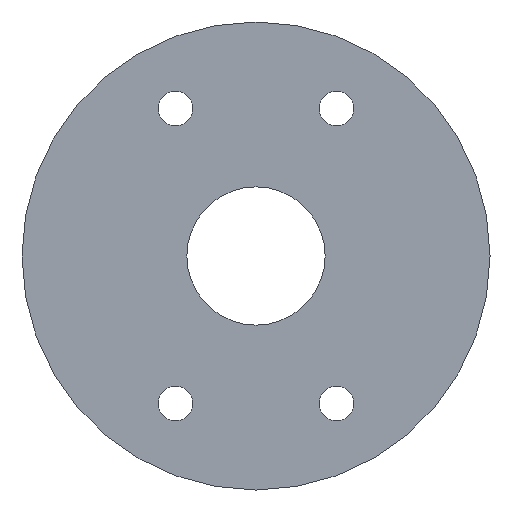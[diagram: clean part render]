
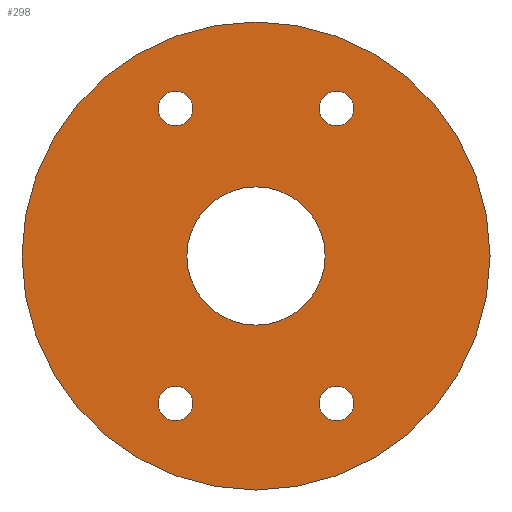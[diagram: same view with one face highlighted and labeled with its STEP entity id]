
A CAD part, front view. The second image highlights one B-rep face of the part: STEP entity #298.
In plain terms, the highlighted planar face has unit normal (0, -1, 0).
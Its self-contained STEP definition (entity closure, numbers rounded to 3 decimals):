
#24=PLANE('',#339);
#46=ORIENTED_EDGE('',*,*,#102,.F.);
#47=ORIENTED_EDGE('',*,*,#103,.F.);
#48=ORIENTED_EDGE('',*,*,#104,.F.);
#49=ORIENTED_EDGE('',*,*,#105,.F.);
#50=ORIENTED_EDGE('',*,*,#106,.T.);
#51=ORIENTED_EDGE('',*,*,#101,.F.);
#101=EDGE_CURVE('',#129,#129,#157,.T.);
#102=EDGE_CURVE('',#130,#130,#158,.T.);
#103=EDGE_CURVE('',#131,#131,#159,.T.);
#104=EDGE_CURVE('',#132,#132,#160,.T.);
#105=EDGE_CURVE('',#133,#133,#161,.T.);
#106=EDGE_CURVE('',#134,#134,#162,.T.);
#129=VERTEX_POINT('',#501);
#130=VERTEX_POINT('',#504);
#131=VERTEX_POINT('',#506);
#132=VERTEX_POINT('',#508);
#133=VERTEX_POINT('',#510);
#134=VERTEX_POINT('',#512);
#157=CIRCLE('',#338,5.159);
#158=CIRCLE('',#340,1.295);
#159=CIRCLE('',#341,1.295);
#160=CIRCLE('',#342,1.295);
#161=CIRCLE('',#343,1.295);
#162=CIRCLE('',#344,17.463);
#186=EDGE_LOOP('',(#46));
#187=EDGE_LOOP('',(#47));
#188=EDGE_LOOP('',(#48));
#189=EDGE_LOOP('',(#49));
#190=EDGE_LOOP('',(#50));
#191=EDGE_LOOP('',(#51));
#242=FACE_BOUND('',#186,.T.);
#243=FACE_BOUND('',#187,.T.);
#244=FACE_BOUND('',#188,.T.);
#245=FACE_BOUND('',#189,.T.);
#246=FACE_BOUND('',#190,.T.);
#247=FACE_BOUND('',#191,.T.);
#298=ADVANCED_FACE('',(#242,#243,#244,#245,#246,#247),#24,.T.);
#338=AXIS2_PLACEMENT_3D('',#500,#397,#398);
#339=AXIS2_PLACEMENT_3D('',#502,#399,#400);
#340=AXIS2_PLACEMENT_3D('',#503,#401,#402);
#341=AXIS2_PLACEMENT_3D('',#505,#403,#404);
#342=AXIS2_PLACEMENT_3D('',#507,#405,#406);
#343=AXIS2_PLACEMENT_3D('',#509,#407,#408);
#344=AXIS2_PLACEMENT_3D('',#511,#409,#410);
#397=DIRECTION('',(0.,-1.,0.));
#398=DIRECTION('',(0.,0.,-1.));
#399=DIRECTION('',(0.,-1.,0.));
#400=DIRECTION('',(0.,0.,-1.));
#401=DIRECTION('',(0.,-1.,0.));
#402=DIRECTION('',(0.,0.,-1.));
#403=DIRECTION('',(0.,-1.,0.));
#404=DIRECTION('',(0.,0.,-1.));
#405=DIRECTION('',(0.,-1.,0.));
#406=DIRECTION('',(0.,0.,-1.));
#407=DIRECTION('',(0.,-1.,0.));
#408=DIRECTION('',(0.,0.,-1.));
#409=DIRECTION('',(0.,-1.,0.));
#410=DIRECTION('',(0.,0.,-1.));
#500=CARTESIAN_POINT('',(0.,0.,0.));
#501=CARTESIAN_POINT('',(0.,0.,-5.159));
#502=CARTESIAN_POINT('',(0.,0.,5.159));
#503=CARTESIAN_POINT('',(-6.,0.,-11.));
#504=CARTESIAN_POINT('',(-6.,0.,-12.295));
#505=CARTESIAN_POINT('',(6.,0.,-11.));
#506=CARTESIAN_POINT('',(6.,0.,-12.295));
#507=CARTESIAN_POINT('',(-6.,0.,11.));
#508=CARTESIAN_POINT('',(-6.,0.,9.705));
#509=CARTESIAN_POINT('',(6.,0.,11.));
#510=CARTESIAN_POINT('',(6.,0.,9.705));
#511=CARTESIAN_POINT('',(0.,0.,0.));
#512=CARTESIAN_POINT('',(0.,0.,-17.463));
